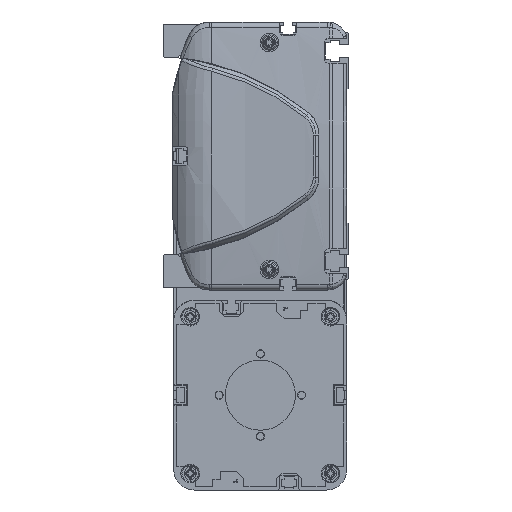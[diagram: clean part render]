
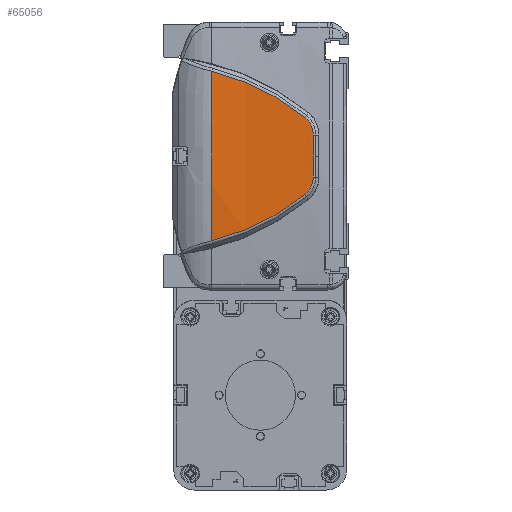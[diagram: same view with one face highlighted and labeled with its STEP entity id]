
A CAD part, left-side view. The second image highlights one B-rep face of the part: STEP entity #65056.
In plain terms, the highlighted cylindrical face has radius 500 mm (diameter 1000 mm), a partial arc.
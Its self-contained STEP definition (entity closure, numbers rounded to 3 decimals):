
#61319=CARTESIAN_POINT('',(-914.,66.962,0.));
#61320=DIRECTION('',(0.,-1.,0.));
#61321=DIRECTION('',(-0.997,0.,0.082));
#61322=AXIS2_PLACEMENT_3D('',#61319,#61320,#61321);
#62196=CARTESIAN_POINT('',(-1413.648,21.913,
-18.759));
#62197=CARTESIAN_POINT('',(-1413.449,28.504,
-24.058));
#62198=CARTESIAN_POINT('',(-1412.934,42.795,
-33.27));
#62199=CARTESIAN_POINT('',(-1412.471,58.756,
-39.127));
#62200=CARTESIAN_POINT('',(-1412.306,66.962,
-41.121));
#62202=CARTESIAN_POINT('',(-1412.306,66.962,
41.121));
#62203=CARTESIAN_POINT('',(-1412.471,58.756,
39.127));
#62204=CARTESIAN_POINT('',(-1412.934,42.795,
33.27));
#62205=CARTESIAN_POINT('',(-1413.449,28.504,
24.058));
#62206=CARTESIAN_POINT('',(-1413.648,21.913,
18.759));
#62208=CARTESIAN_POINT('',(-1413.648,21.913,
18.759));
#62209=CARTESIAN_POINT('',(-1413.686,20.635,
17.736));
#62210=CARTESIAN_POINT('',(-1413.779,18.536,
15.107));
#62211=CARTESIAN_POINT('',(-1413.863,17.752,
11.827));
#62212=CARTESIAN_POINT('',(-1413.896,17.724,
10.178));
#62214=CARTESIAN_POINT('',(-1413.896,17.724,
10.178));
#62215=CARTESIAN_POINT('',(-1413.92,17.707,
9.027));
#62216=CARTESIAN_POINT('',(-1413.959,17.667,
6.737));
#62217=CARTESIAN_POINT('',(-1413.993,17.58,
3.342));
#62218=CARTESIAN_POINT('',(-1414.,17.498,
1.109));
#62219=CARTESIAN_POINT('',(-1414.,17.449,
0.));
#62221=CARTESIAN_POINT('',(-1414.,17.449,
0.));
#62222=CARTESIAN_POINT('',(-1414.,17.498,
-1.109));
#62223=CARTESIAN_POINT('',(-1413.993,17.58,
-3.343));
#62224=CARTESIAN_POINT('',(-1413.959,17.667,
-6.736));
#62225=CARTESIAN_POINT('',(-1413.92,17.707,
-9.028));
#62226=CARTESIAN_POINT('',(-1413.896,17.724,
-10.18));
#62228=CARTESIAN_POINT('',(-1413.896,17.724,
-10.18));
#62229=CARTESIAN_POINT('',(-1413.863,17.752,
-11.828));
#62230=CARTESIAN_POINT('',(-1413.779,18.537,
-15.109));
#62231=CARTESIAN_POINT('',(-1413.686,20.635,
-17.736));
#62232=CARTESIAN_POINT('',(-1413.648,21.913,
-18.759));
#62880=VERTEX_POINT('',#62196);
#62881=VERTEX_POINT('',#62200);
#62882=CARTESIAN_POINT('',(-1412.306,66.962,
41.121));
#62883=VERTEX_POINT('',#62882);
#62884=VERTEX_POINT('',#62206);
#62885=VERTEX_POINT('',#62212);
#62886=VERTEX_POINT('',#62219);
#62887=VERTEX_POINT('',#62226);
#65037=CARTESIAN_POINT('',(-914.,8.606,0.));
#65038=DIRECTION('',(0.,1.,0.));
#65039=DIRECTION('',(1.,0.,0.));
#65040=AXIS2_PLACEMENT_3D('',#65037,#65038,#65039);
#65041=CYLINDRICAL_SURFACE('',#65040,500.);
#65043=ORIENTED_EDGE('',*,*,#65042,.T.);
#65044=ORIENTED_EDGE('',*,*,#63682,.F.);
#65046=ORIENTED_EDGE('',*,*,#65045,.T.);
#65048=ORIENTED_EDGE('',*,*,#65047,.T.);
#65050=ORIENTED_EDGE('',*,*,#65049,.T.);
#65052=ORIENTED_EDGE('',*,*,#65051,.T.);
#65053=ORIENTED_EDGE('',*,*,#65027,.T.);
#65054=EDGE_LOOP('',(#65043,#65044,#65046,#65048,#65050,#65052,#65053));
#65055=FACE_OUTER_BOUND('',#65054,.F.);
#65056=ADVANCED_FACE('',(#65055),#65041,.T.);
#61323=CIRCLE('',#61322,500.);
#62201=B_SPLINE_CURVE_WITH_KNOTS('',3,(#62196,#62197,#62198,#62199,#62200),
.UNSPECIFIED.,.F.,.F.,(4,1,4),(0.,0.5,1.),.UNSPECIFIED.);
#62207=B_SPLINE_CURVE_WITH_KNOTS('',3,(#62202,#62203,#62204,#62205,#62206),
.UNSPECIFIED.,.F.,.F.,(4,1,4),(0.,0.5,1.),.UNSPECIFIED.);
#62213=B_SPLINE_CURVE_WITH_KNOTS('',3,(#62208,#62209,#62210,#62211,#62212),
.UNSPECIFIED.,.F.,.F.,(4,1,4),(0.,0.5,1.),.UNSPECIFIED.);
#62220=B_SPLINE_CURVE_WITH_KNOTS('',3,(#62214,#62215,#62216,#62217,#62218,
#62219),.UNSPECIFIED.,.F.,.F.,(4,1,1,4),(0.,0.333,
0.667,1.),.UNSPECIFIED.);
#62227=B_SPLINE_CURVE_WITH_KNOTS('',3,(#62221,#62222,#62223,#62224,#62225,
#62226),.UNSPECIFIED.,.F.,.F.,(4,1,1,4),(0.,0.333,
0.667,1.),.UNSPECIFIED.);
#62233=B_SPLINE_CURVE_WITH_KNOTS('',3,(#62228,#62229,#62230,#62231,#62232),
.UNSPECIFIED.,.F.,.F.,(4,1,4),(0.,0.5,1.),.UNSPECIFIED.);
#63682=EDGE_CURVE('',#62883,#62881,#61323,.T.);
#65027=EDGE_CURVE('',#62887,#62880,#62233,.T.);
#65042=EDGE_CURVE('',#62880,#62881,#62201,.T.);
#65045=EDGE_CURVE('',#62883,#62884,#62207,.T.);
#65047=EDGE_CURVE('',#62884,#62885,#62213,.T.);
#65049=EDGE_CURVE('',#62885,#62886,#62220,.T.);
#65051=EDGE_CURVE('',#62886,#62887,#62227,.T.);
